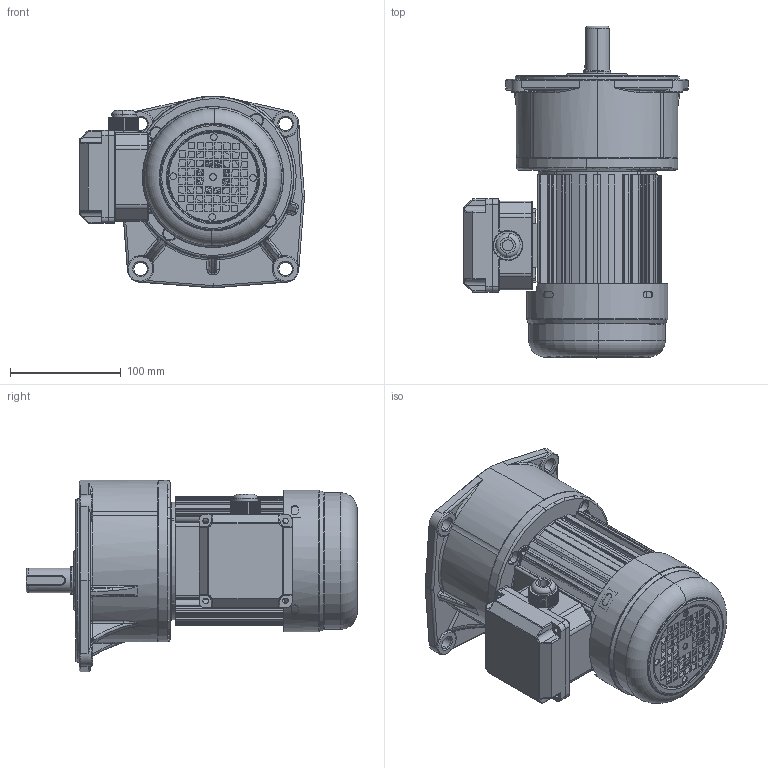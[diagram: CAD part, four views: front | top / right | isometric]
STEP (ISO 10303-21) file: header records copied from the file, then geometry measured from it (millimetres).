
FILE_DESCRIPTION (( 'STEP AP203' ), '1' );
FILE_NAME ('100W饜2#湍价陬蕾宒.STEP', '2020-04-17T02:22:23', ( '' ), ( '' ), 'SwSTEP 2.0', 'SolidWorks 2019', '' );
FILE_SCHEMA (( 'CONFIG_CONTROL_DESIGN' ));
Length unit declared in the file: millimetre
Products named in the file (8): 蜊輛綴諉盄碟釱3; 2#蕾宒熬厒ん; 諉芛; 100W棠憤迖殤; 100W饜2#蕾宒; 湍价陬諉盄碟裔; 100W饜2#湍价陬蕾宒; 100W价陬瑞欶
Assembly tree (7 placements, depth 2):
  100W饜2#湍价陬蕾宒
    100W饜2#蕾宒
    2#蕾宒熬厒ん
    100W棠憤迖殤
    100W价陬瑞欶
    蜊輛綴諉盄碟釱3
    諉芛
    湍价陬諉盄碟裔
Bounding box: 202.98 x 299.5 x 172.99 mm (x, y, z)
Volume: 1915910.9 mm3; surface area: 450041.8 mm2
Topology: 8 solids, 8 shells, 2379 faces, 6182 edges, 3836 vertices
Faces by surface type: cylinder 758, plane 750, bspline 393, torus 266, cone 156, sphere 56
Entity records: 98043 total; most frequent: CARTESIAN_POINT 41619, ORIENTED_EDGE 12250, DIRECTION 10953, EDGE_CURVE 6125, AXIS2_PLACEMENT_3D 4198, VERTEX_POINT 3840, EDGE_LOOP 2651, LINE 2557
